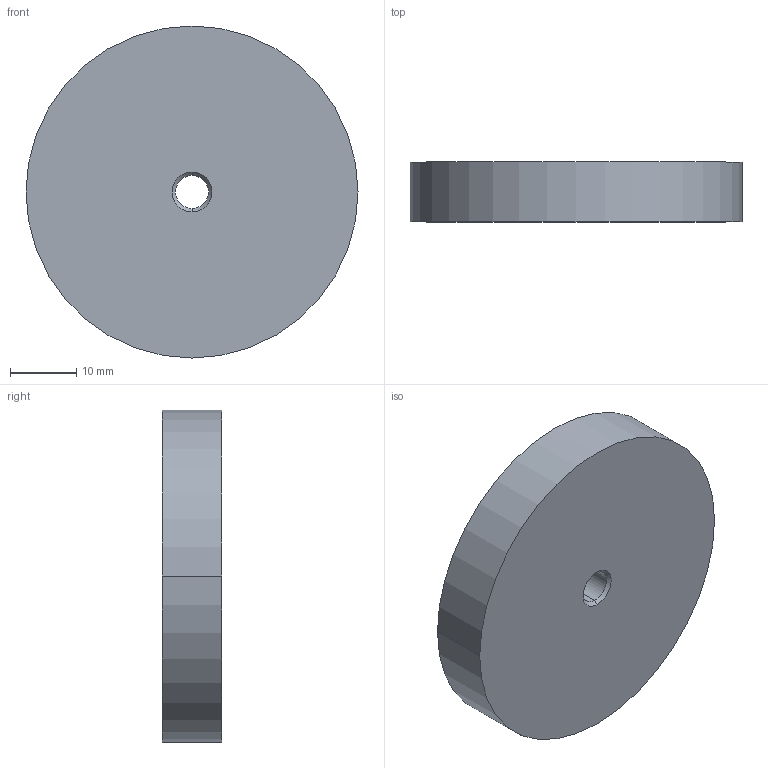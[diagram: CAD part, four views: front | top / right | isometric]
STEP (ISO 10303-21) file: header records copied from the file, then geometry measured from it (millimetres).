
FILE_DESCRIPTION (( 'STEP AP203' ), '1' );
FILE_NAME ('455050.STEP', '2018-10-15T11:45:40', ( '' ), ( '' ), 'SwSTEP 2.0', 'SolidWorks 2015', '' );
FILE_SCHEMA (( 'CONFIG_CONTROL_DESIGN' ));
Length unit declared in the file: millimetre
Products named in the file (1): 455050
Bounding box: 50 x 9 x 50 mm (x, y, z)
Volume: 17490.6 mm3; surface area: 5434.3 mm2
Topology: 1 solids, 1 shells, 10 faces, 20 edges, 12 vertices
Faces by surface type: cone 4, cylinder 4, plane 2
Entity records: 345 total; most frequent: DIRECTION 54, CARTESIAN_POINT 43, ORIENTED_EDGE 40, AXIS2_PLACEMENT_3D 23, EDGE_CURVE 20, CIRCLE 12, VERTEX_POINT 12, EDGE_LOOP 12
